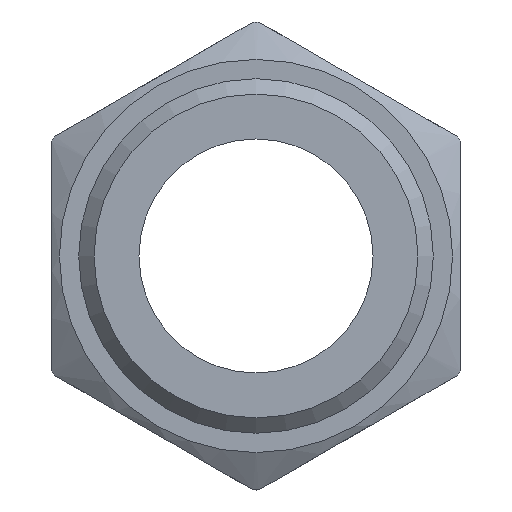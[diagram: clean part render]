
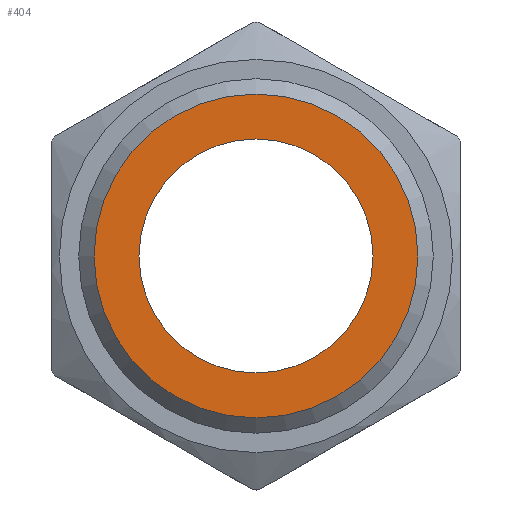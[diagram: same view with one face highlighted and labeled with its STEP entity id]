
A CAD part, front view. The second image highlights one B-rep face of the part: STEP entity #404.
In plain terms, the highlighted planar face has unit normal (0, -1, 0).
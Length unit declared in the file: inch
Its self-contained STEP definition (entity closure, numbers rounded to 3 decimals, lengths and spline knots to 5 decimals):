
#16=FACE_BOUND('',#102,.T.);
#48=CIRCLE('',#460,0.173);
#52=CIRCLE('',#466,0.125);
#53=CIRCLE('',#467,0.125);
#77=FACE_OUTER_BOUND('',#101,.T.);
#101=EDGE_LOOP('',(#344));
#102=EDGE_LOOP('',(#345,#346));
#193=VERTEX_POINT('',#719);
#197=VERTEX_POINT('',#731);
#198=VERTEX_POINT('',#732);
#247=EDGE_CURVE('',#193,#193,#48,.T.);
#253=EDGE_CURVE('',#197,#198,#52,.T.);
#254=EDGE_CURVE('',#198,#197,#53,.T.);
#344=ORIENTED_EDGE('',*,*,#247,.F.);
#345=ORIENTED_EDGE('',*,*,#253,.F.);
#346=ORIENTED_EDGE('',*,*,#254,.F.);
#384=PLANE('',#465);
#404=ADVANCED_FACE('',(#77,#16),#384,.T.);
#460=AXIS2_PLACEMENT_3D('',#720,#564,#565);
#465=AXIS2_PLACEMENT_3D('',#730,#576,#577);
#466=AXIS2_PLACEMENT_3D('',#733,#578,#579);
#467=AXIS2_PLACEMENT_3D('',#734,#580,#581);
#564=DIRECTION('center_axis',(0.,1.,0.));
#565=DIRECTION('ref_axis',(0.,0.,1.));
#576=DIRECTION('center_axis',(0.,-1.,0.));
#577=DIRECTION('ref_axis',(0.,0.,-1.));
#578=DIRECTION('center_axis',(0.,-1.,0.));
#579=DIRECTION('ref_axis',(1.,0.,0.));
#580=DIRECTION('center_axis',(0.,-1.,0.));
#581=DIRECTION('ref_axis',(1.,0.,0.));
#719=CARTESIAN_POINT('',(0.,0.,-0.173));
#720=CARTESIAN_POINT('Origin',(0.,0.,0.));
#730=CARTESIAN_POINT('Origin',(0.,0.,-0.125));
#731=CARTESIAN_POINT('',(0.,0.,-0.125));
#732=CARTESIAN_POINT('',(0.,0.,0.125));
#733=CARTESIAN_POINT('Origin',(0.,0.,0.));
#734=CARTESIAN_POINT('Origin',(0.,0.,0.));
